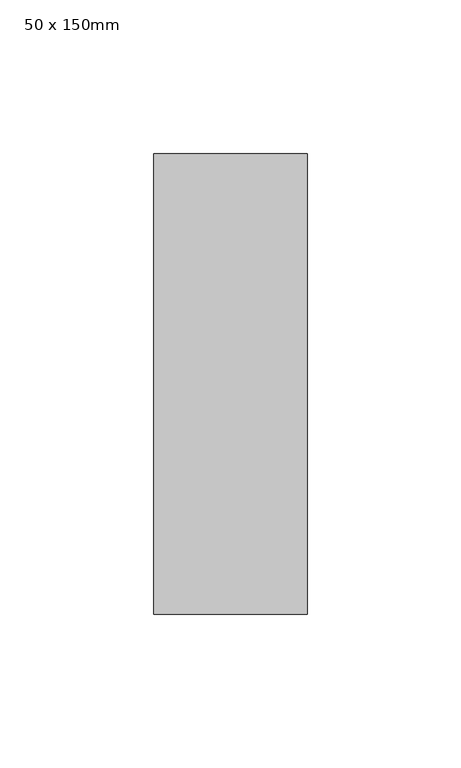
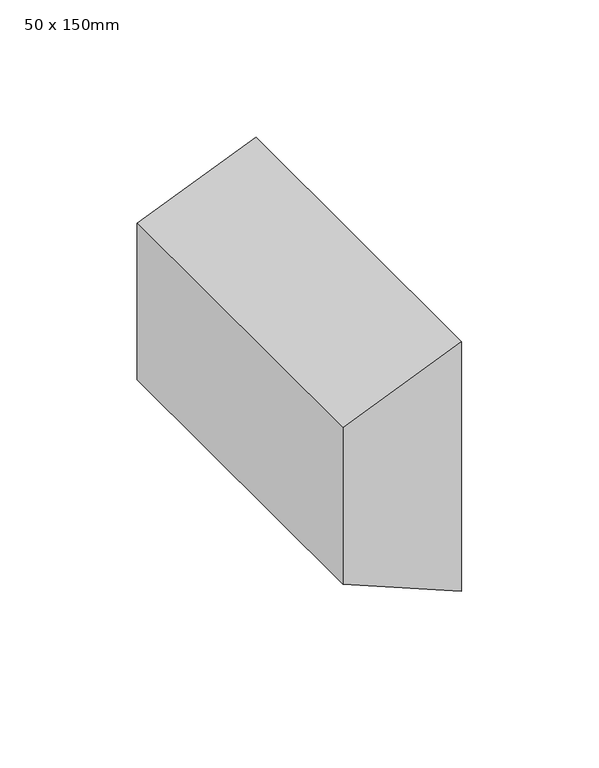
"""IFC4 building model written with IfcOpenShell, lengths in millimetres: member geometry, Prostokątny szpros : 50 x 150mm."""

from ifc_helpers import new_model, si_unit, frame, origin, place, context, project, spatial, polyline, outline, extrude, source, transform, mapped, element, save


def member_50_x_150mm_0e5ca1f3(model_context):
    return source(origin(), model_context, "Body", "SweptSolid", [
        extrude(outline(polyline([(0.0, 0.0), (-20.7106781, -50.0), (-90.380592, -50.0), (-111.0912701, 0.0), (0.0, 0.0)])), frame((0.0, -75.0, 0.0), z_axis=(0.0, 1.0, 0.0), x_axis=(0.0, 0.0, 1.0)), (0.0, 0.0, 1.0), 150.0),
    ])


if __name__ == "__main__":
    model = new_model("IFC4")
    model_context = context("Model", 3, world=origin())
    ifc_project = project(units=[si_unit("LENGTHUNIT", "METRE", prefix="MILLI")], contexts=[model_context])
    site = spatial("IfcSite", under=ifc_project)
    building = spatial("IfcBuilding", under=site)
    placement = place(None, origin())
    member_50_x_150mm_shape = member_50_x_150mm_0e5ca1f3(model_context)
    element("IfcMember", 1, ObjectType="Prostokątny szpros : 50 x 150mm", at=placement, inside=building, context=model_context, shape_type="MappedRepresentation", body=[
        mapped(member_50_x_150mm_shape, transform((0.0, 0.0, 0.0), x_axis=(1.0, 0.0, 0.0), y_axis=(0.0, 1.0, 0.0), z_axis=(0.0, 0.0, 1.0))),
    ])
    save(model, "model.ifc")
